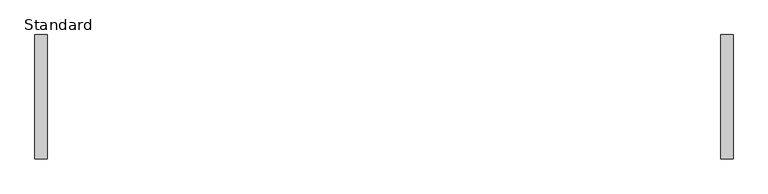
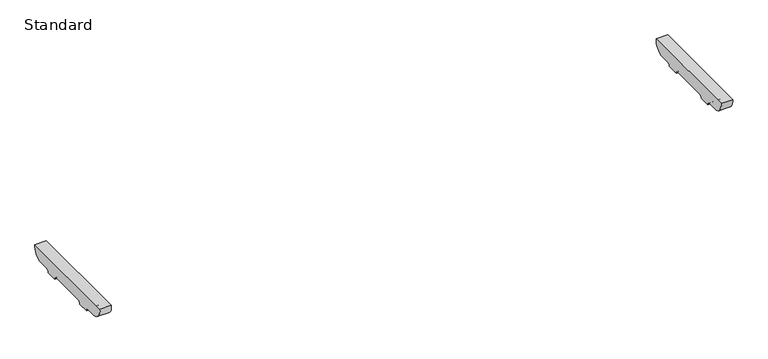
"""IFC4 building model written with IfcOpenShell, lengths in millimetres: furniture geometry, BDG_BossDesign_Tbls_AgentTables4Legs_Nested : Standard."""

from ifc_helpers import new_model, si_unit, point, frame, frame_2d, origin, place, context, project, spatial, polyline, circle_curve, trimmed, segment, composite_curve, outline, extrude, source, transform, mapped, element, save


def standard_ebd812a6(model_context):
    return source(origin(), model_context, "Body", "SweptSolid", [
        extrude(outline(composite_curve([segment(polyline([(180.5450184, 672.0), (142.7000122, 672.0)]), True, "CONTINUOUS"), segment(trimmed(circle_curve(frame_2d((142.7000122, 660.0)), 12.0), [point((142.7000122, 672.0))], [point((130.7000122, 660.0))], True, "CARTESIAN"), True, "CONTINUOUS"), segment(polyline([(130.7000122, 660.0), (85.7000122, 660.0)]), True, "CONTINUOUS"), segment(trimmed(circle_curve(frame_2d((73.7000122, 660.0)), 12.0), [point((85.7000122, 660.0))], [point((73.7000122, 672.0))], True, "CARTESIAN"), True, "CONTINUOUS"), segment(polyline([(73.7000122, 672.0), (-73.7000122, 672.0)]), True, "CONTINUOUS"), segment(trimmed(circle_curve(frame_2d((-73.7000122, 660.0)), 12.0), [point((-73.7000122, 672.0))], [point((-85.7000122, 660.0))], True, "CARTESIAN"), True, "CONTINUOUS"), segment(polyline([(-85.7000122, 660.0), (-130.7000122, 660.0)]), True, "CONTINUOUS"), segment(trimmed(circle_curve(frame_2d((-142.7000122, 660.0)), 12.0), [point((-130.7000122, 660.0))], [point((-142.7000122, 672.0))], True, "CARTESIAN"), True, "CONTINUOUS"), segment(polyline([(-142.7000122, 672.0), (-180.5450184, 672.0)]), True, "CONTINUOUS"), segment(trimmed(circle_curve(frame_2d((-178.2220439, 716.5514119)), 44.6119324), [point((-180.5450184, 672.0))], [point((-222.5, 722.0))], False, "CARTESIAN"), True, "CONTINUOUS"), segment(polyline([(-222.5, 722.0), (222.5, 722.0)]), True, "CONTINUOUS"), segment(trimmed(circle_curve(frame_2d((178.2220439, 716.5514119)), 44.6119324), [point((222.5, 722.0))], [point((180.5450184, 672.0))], False, "CARTESIAN"), True, "CONTINUOUS")], self_intersect=False)), frame((1205.0, 0.0, 0.0), z_axis=(1.0, 0.0, 0.0), x_axis=(0.0, 1.0, 0.0)), (0.0, 0.0, 1.0), 45.0),
        extrude(outline(composite_curve([segment(polyline([(180.5450184, 672.0), (142.7000122, 672.0)]), True, "CONTINUOUS"), segment(trimmed(circle_curve(frame_2d((142.7000122, 660.0)), 12.0), [point((142.7000122, 672.0))], [point((130.7000122, 660.0))], True, "CARTESIAN"), True, "CONTINUOUS"), segment(polyline([(130.7000122, 660.0), (85.7000122, 660.0)]), True, "CONTINUOUS"), segment(trimmed(circle_curve(frame_2d((73.7000122, 660.0)), 12.0), [point((85.7000122, 660.0))], [point((73.7000122, 672.0))], True, "CARTESIAN"), True, "CONTINUOUS"), segment(polyline([(73.7000122, 672.0), (-73.7000122, 672.0)]), True, "CONTINUOUS"), segment(trimmed(circle_curve(frame_2d((-73.7000122, 660.0)), 12.0), [point((-73.7000122, 672.0))], [point((-85.7000122, 660.0))], True, "CARTESIAN"), True, "CONTINUOUS"), segment(polyline([(-85.7000122, 660.0), (-130.7000122, 660.0)]), True, "CONTINUOUS"), segment(trimmed(circle_curve(frame_2d((-142.7000122, 660.0)), 12.0), [point((-130.7000122, 660.0))], [point((-142.7000122, 672.0))], True, "CARTESIAN"), True, "CONTINUOUS"), segment(polyline([(-142.7000122, 672.0), (-180.5450184, 672.0)]), True, "CONTINUOUS"), segment(trimmed(circle_curve(frame_2d((-178.2220439, 716.5514119)), 44.6119324), [point((-180.5450184, 672.0))], [point((-222.5, 722.0))], False, "CARTESIAN"), True, "CONTINUOUS"), segment(polyline([(-222.5, 722.0), (222.5, 722.0)]), True, "CONTINUOUS"), segment(trimmed(circle_curve(frame_2d((178.2220439, 716.5514119)), 44.6119324), [point((222.5, 722.0))], [point((180.5450184, 672.0))], False, "CARTESIAN"), True, "CONTINUOUS")], self_intersect=False)), frame((-1250.0, 0.0, 0.0), z_axis=(1.0, 0.0, 0.0), x_axis=(0.0, 1.0, 0.0)), (0.0, 0.0, 1.0), 45.0),
    ])


if __name__ == "__main__":
    model = new_model("IFC4")
    model_context = context("Model", 3, world=origin())
    ifc_project = project(units=[si_unit("LENGTHUNIT", "METRE", prefix="MILLI")], contexts=[model_context])
    site = spatial("IfcSite", under=ifc_project)
    building = spatial("IfcBuilding", under=site)
    placement = place(None, origin())
    standard_shape = standard_ebd812a6(model_context)
    element("IfcFurniture", 1, ObjectType="BDG_BossDesign_Tbls_AgentTables4Legs_Nested : Standard", at=placement, inside=building, context=model_context, shape_type="MappedRepresentation", body=[
        mapped(standard_shape, transform((0.0, 0.0, 0.0), x_axis=(1.0, 0.0, 0.0), y_axis=(0.0, 1.0, 0.0), z_axis=(0.0, 0.0, 1.0))),
    ])
    save(model, "model.ifc")
